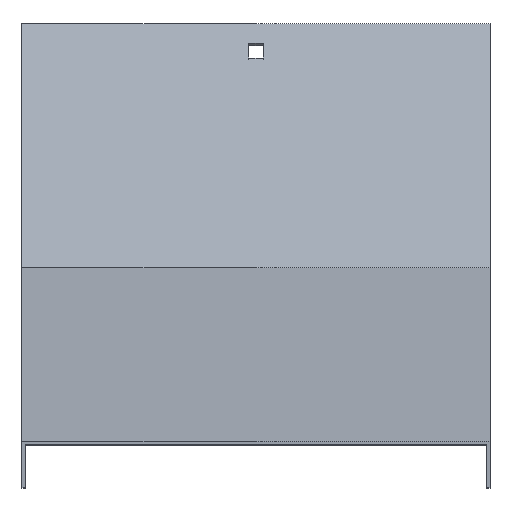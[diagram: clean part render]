
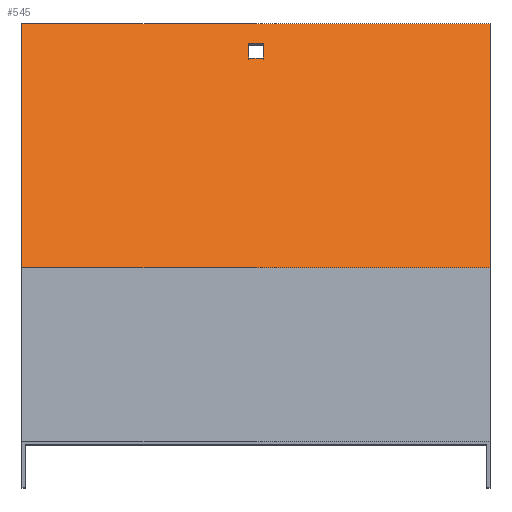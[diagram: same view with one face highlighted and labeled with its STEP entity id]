
A CAD part, top view. The second image highlights one B-rep face of the part: STEP entity #545.
In plain terms, the highlighted planar face has unit normal (0, 0.707, 0.707).
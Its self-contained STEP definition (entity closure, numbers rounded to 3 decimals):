
#20 = CARTESIAN_POINT ( 'NONE',  ( 101.5, 75.963, -333.19 ) ) ;
#28 = FACE_BOUND ( 'NONE', #52, .T. ) ;
#49 = PLANE ( 'NONE',  #851 ) ;
#50 = CARTESIAN_POINT ( 'NONE',  ( 101.5, 75.963, -333.19 ) ) ;
#52 = EDGE_LOOP ( 'NONE', ( #223, #641, #784, #484 ) ) ;
#61 = CARTESIAN_POINT ( 'NONE',  ( 101.5, 181.887, -439.115 ) ) ;
#64 = CARTESIAN_POINT ( 'NONE',  ( -3.25, 167.038, -424.265 ) ) ;
#67 = VECTOR ( 'NONE', #638, 1000. ) ;
#82 = VECTOR ( 'NONE', #617, 1000. ) ;
#125 = CARTESIAN_POINT ( 'NONE',  ( -101.5, 75.963, -333.19 ) ) ;
#133 = LINE ( 'NONE', #378, #67 ) ;
#138 = VERTEX_POINT ( 'NONE', #412 ) ;
#141 = LINE ( 'NONE', #331, #685 ) ;
#144 = EDGE_CURVE ( 'NONE', #180, #138, #420, .T. ) ;
#153 = CARTESIAN_POINT ( 'NONE',  ( 3.25, 167.038, -424.265 ) ) ;
#176 = LINE ( 'NONE', #125, #496 ) ;
#180 = VERTEX_POINT ( 'NONE', #542 ) ;
#188 = VERTEX_POINT ( 'NONE', #221 ) ;
#196 = EDGE_CURVE ( 'NONE', #138, #595, #176, .T. ) ;
#217 = ORIENTED_EDGE ( 'NONE', *, *, #144, .F. ) ;
#221 = CARTESIAN_POINT ( 'NONE',  ( 101.5, 181.887, -439.115 ) ) ;
#222 = LINE ( 'NONE', #537, #416 ) ;
#223 = ORIENTED_EDGE ( 'NONE', *, *, #799, .F. ) ;
#233 = DIRECTION ( 'NONE',  ( 0., -0.707, 0.707 ) ) ;
#268 = EDGE_CURVE ( 'NONE', #180, #188, #442, .T. ) ;
#299 = CARTESIAN_POINT ( 'NONE',  ( 101.5, 75.963, -333.19 ) ) ;
#327 = ORIENTED_EDGE ( 'NONE', *, *, #352, .T. ) ;
#331 = CARTESIAN_POINT ( 'NONE',  ( -3.25, 167.038, -424.265 ) ) ;
#352 = EDGE_CURVE ( 'NONE', #188, #595, #578, .T. ) ;
#368 = DIRECTION ( 'NONE',  ( 0., 0.707, 0.707 ) ) ;
#378 = CARTESIAN_POINT ( 'NONE',  ( 3.25, 167.038, -424.265 ) ) ;
#386 = DIRECTION ( 'NONE',  ( 0., -0.707, 0.707 ) ) ;
#412 = CARTESIAN_POINT ( 'NONE',  ( -101.5, 75.963, -333.19 ) ) ;
#416 = VECTOR ( 'NONE', #715, 1000. ) ;
#420 = LINE ( 'NONE', #20, #655 ) ;
#424 = CARTESIAN_POINT ( 'NONE',  ( -3.25, 173.402, -430.629 ) ) ;
#442 = LINE ( 'NONE', #50, #82 ) ;
#456 = CARTESIAN_POINT ( 'NONE',  ( -101.5, 181.887, -439.115 ) ) ;
#474 = ORIENTED_EDGE ( 'NONE', *, *, #268, .T. ) ;
#484 = ORIENTED_EDGE ( 'NONE', *, *, #762, .F. ) ;
#496 = VECTOR ( 'NONE', #686, 1000. ) ;
#514 = ORIENTED_EDGE ( 'NONE', *, *, #196, .F. ) ;
#536 = DIRECTION ( 'NONE',  ( -1., 0., 0. ) ) ;
#537 = CARTESIAN_POINT ( 'NONE',  ( 3.25, 167.038, -424.265 ) ) ;
#542 = CARTESIAN_POINT ( 'NONE',  ( 101.5, 75.963, -333.19 ) ) ;
#543 = LINE ( 'NONE', #599, #788 ) ;
#545 = ADVANCED_FACE ( 'NONE', ( #28, #620 ), #49, .T. ) ;
#551 = CARTESIAN_POINT ( 'NONE',  ( 3.25, 173.402, -430.629 ) ) ;
#578 = LINE ( 'NONE', #61, #820 ) ;
#595 = VERTEX_POINT ( 'NONE', #456 ) ;
#599 = CARTESIAN_POINT ( 'NONE',  ( 3.25, 173.402, -430.629 ) ) ;
#617 = DIRECTION ( 'NONE',  ( 0., 0.707, -0.707 ) ) ;
#620 = FACE_OUTER_BOUND ( 'NONE', #724, .T. ) ;
#638 = DIRECTION ( 'NONE',  ( 1., 0., 0. ) ) ;
#641 = ORIENTED_EDGE ( 'NONE', *, *, #648, .F. ) ;
#648 = EDGE_CURVE ( 'NONE', #657, #773, #133, .T. ) ;
#655 = VECTOR ( 'NONE', #536, 1000. ) ;
#657 = VERTEX_POINT ( 'NONE', #64 ) ;
#685 = VECTOR ( 'NONE', #386, 1000. ) ;
#686 = DIRECTION ( 'NONE',  ( 0., 0.707, -0.707 ) ) ;
#714 = VERTEX_POINT ( 'NONE', #551 ) ;
#715 = DIRECTION ( 'NONE',  ( 0., 0.707, -0.707 ) ) ;
#724 = EDGE_LOOP ( 'NONE', ( #514, #217, #474, #327 ) ) ;
#746 = VERTEX_POINT ( 'NONE', #424 ) ;
#762 = EDGE_CURVE ( 'NONE', #714, #746, #543, .T. ) ;
#773 = VERTEX_POINT ( 'NONE', #153 ) ;
#780 = DIRECTION ( 'NONE',  ( -1., 0., 0. ) ) ;
#784 = ORIENTED_EDGE ( 'NONE', *, *, #817, .F. ) ;
#788 = VECTOR ( 'NONE', #810, 1000. ) ;
#799 = EDGE_CURVE ( 'NONE', #773, #714, #222, .T. ) ;
#810 = DIRECTION ( 'NONE',  ( -1., 0., 0. ) ) ;
#817 = EDGE_CURVE ( 'NONE', #746, #657, #141, .T. ) ;
#820 = VECTOR ( 'NONE', #780, 1000. ) ;
#851 = AXIS2_PLACEMENT_3D ( 'NONE', #299, #368, #233 ) ;
